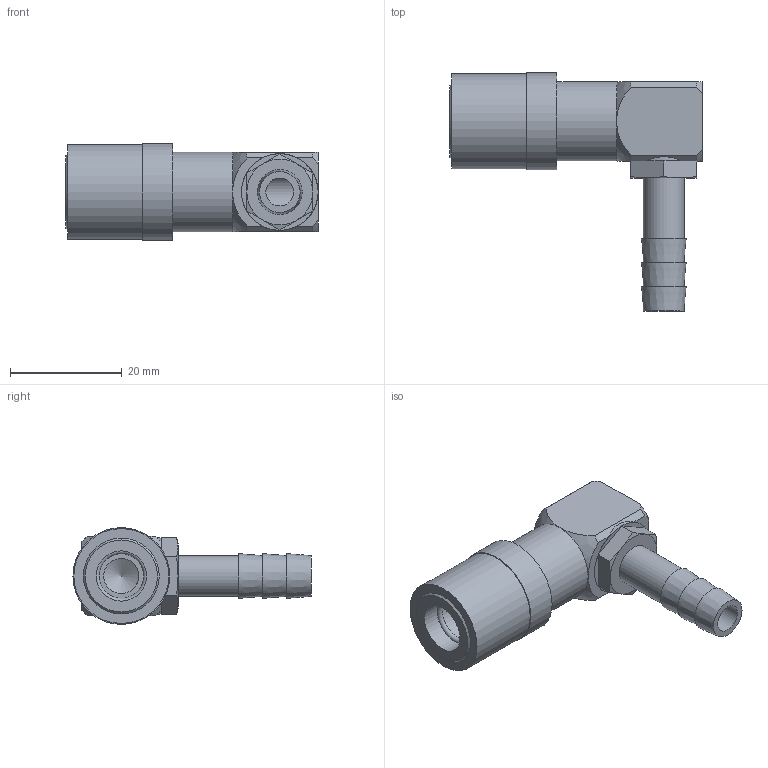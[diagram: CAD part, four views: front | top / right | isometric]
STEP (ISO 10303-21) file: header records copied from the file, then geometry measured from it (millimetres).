
FILE_DESCRIPTION(/* description */ ('STEP AP214'),/* implementation_level */ '2;1');
FILE_NAME(/* name */ 'SK206',/* time_stamp */ '2024-12-05T10:31:11+01:00',/* author */ ('License CC BY-ND 4.0'),/* organization */ ('CADENAS'),/* preprocessor_version */ 'ST-DEVELOPER v19.3',/* originating_system */ 'PARTsolutions',/* authorisation */ ' ');
FILE_SCHEMA (('AUTOMOTIVE_DESIGN {1 0 10303 214 3 1 1}'));
Length unit declared in the file: millimetre
Products named in the file (1): SK206
Bounding box: 45.21 x 42.67 x 17.34 mm (x, y, z)
Volume: 8239.3 mm3; surface area: 4960.6 mm2
Topology: 1 solids, 1 shells, 58 faces, 128 edges, 81 vertices
Faces by surface type: plane 29, cone 11, cylinder 9, sphere 8, torus 1
Full cylindrical faces by diameter (mm): 5 x1, 6.299 x1, 7.3 x1, 9 x2, 13.731 x1, 14.224 x1, 17 x1, 17.34 x1
Entity records: 1579 total; most frequent: CARTESIAN_POINT 302, DIRECTION 282, ORIENTED_EDGE 220, AXIS2_PLACEMENT_3D 126, EDGE_CURVE 110, FACE_BOUND 85, EDGE_LOOP 84, VERTEX_POINT 79
